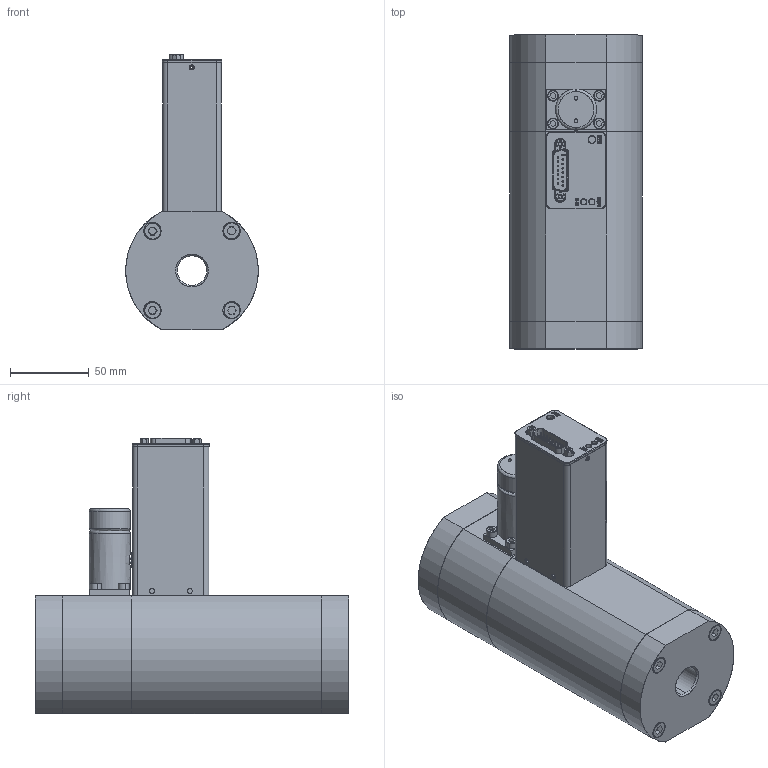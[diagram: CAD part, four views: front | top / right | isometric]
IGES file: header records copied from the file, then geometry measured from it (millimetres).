
Start section: SolidWorks IGES file using analytic representation for surfaces
Global section: file name: G:\Engineering\CAD MODELS FOR SALES\CAD MODEL STORAGE\SLA\SLA5853\IGES\SLA5853-S-2N-2-C-REVB.IGS; native system: SolidWorks 2017; preprocessor: SolidWorks 2017; author: JStauffer1; date: 181029.145641; units: millimetre
Bounding box: 84 x 198.8 x 174.37 mm (x, y, z)
Surface area: 116327.5 mm2 (no closed solid volume)
Topology: 0 solids, 0 shells, 525 faces, 6915 edges, 6915 vertices
Faces by surface type: bspline 269, revolution 256
